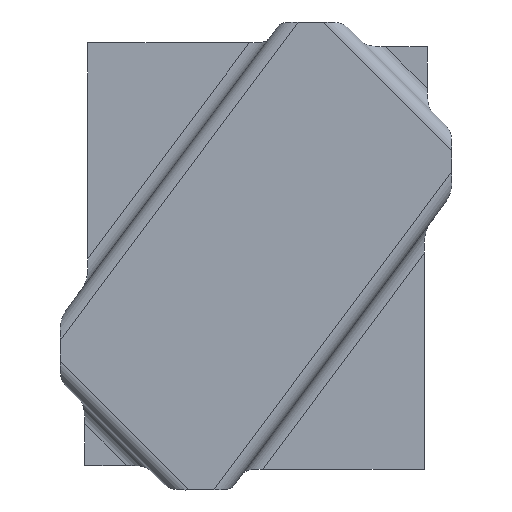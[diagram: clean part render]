
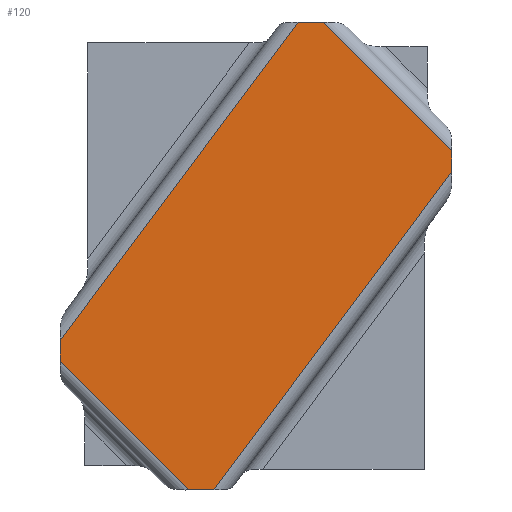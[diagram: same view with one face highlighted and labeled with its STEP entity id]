
A CAD part, top view. The second image highlights one B-rep face of the part: STEP entity #120.
In plain terms, the highlighted planar face has unit normal (0, 0, -1).
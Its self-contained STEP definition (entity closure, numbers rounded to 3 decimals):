
#53=CARTESIAN_POINT('Axis2P3D Location',(-51.673,38.62,65.01)) ;
#59=CARTESIAN_POINT('Control Point',(-51.673,77.927,65.01)) ;
#60=CARTESIAN_POINT('Control Point',(10.879,161.62,65.01)) ;
#61=CARTESIAN_POINT('Vertex',(-51.673,77.927,65.01)) ;
#63=CARTESIAN_POINT('Vertex',(10.879,161.62,65.01)) ;
#66=CARTESIAN_POINT('Line Origine',(-0.173,161.62,65.01)) ;
#70=CARTESIAN_POINT('Vertex',(17.501,161.62,65.01)) ;
#74=CARTESIAN_POINT('Control Point',(17.501,161.62,65.01)) ;
#75=CARTESIAN_POINT('Control Point',(51.327,127.794,65.01)) ;
#76=CARTESIAN_POINT('Vertex',(51.327,127.794,65.01)) ;
#79=CARTESIAN_POINT('Line Origine',(51.327,100.12,65.01)) ;
#83=CARTESIAN_POINT('Vertex',(51.327,122.33,65.01)) ;
#87=CARTESIAN_POINT('Control Point',(51.327,122.33,65.01)) ;
#88=CARTESIAN_POINT('Control Point',(-11.237,38.62,65.01)) ;
#89=CARTESIAN_POINT('Vertex',(-11.237,38.62,65.01)) ;
#92=CARTESIAN_POINT('Line Origine',(-0.173,38.62,65.01)) ;
#96=CARTESIAN_POINT('Vertex',(-17.847,38.62,65.01)) ;
#100=CARTESIAN_POINT('Control Point',(-51.673,72.446,65.01)) ;
#101=CARTESIAN_POINT('Control Point',(-17.847,38.62,65.01)) ;
#102=CARTESIAN_POINT('Vertex',(-51.673,72.446,65.01)) ;
#105=CARTESIAN_POINT('Line Origine',(-51.673,100.12,65.01)) ;
#54=DIRECTION('Axis2P3D Direction',(0.,0.,1.)) ;
#55=DIRECTION('Axis2P3D XDirection',(1.,0.,0.)) ;
#67=DIRECTION('Vector Direction',(1.,0.,0.)) ;
#80=DIRECTION('Vector Direction',(0.,1.,0.)) ;
#93=DIRECTION('Vector Direction',(1.,0.,0.)) ;
#106=DIRECTION('Vector Direction',(0.,1.,0.)) ;
#56=AXIS2_PLACEMENT_3D('Plane Axis2P3D',#53,#54,#55) ;
#111=ORIENTED_EDGE('',*,*,#65,.T.) ;
#112=ORIENTED_EDGE('',*,*,#72,.T.) ;
#113=ORIENTED_EDGE('',*,*,#78,.T.) ;
#114=ORIENTED_EDGE('',*,*,#85,.T.) ;
#115=ORIENTED_EDGE('',*,*,#91,.T.) ;
#116=ORIENTED_EDGE('',*,*,#98,.T.) ;
#117=ORIENTED_EDGE('',*,*,#104,.F.) ;
#118=ORIENTED_EDGE('',*,*,#109,.T.) ;
#68=VECTOR('Line Direction',#67,1.) ;
#81=VECTOR('Line Direction',#80,1.) ;
#94=VECTOR('Line Direction',#93,1.) ;
#107=VECTOR('Line Direction',#106,1.) ;
#120=ADVANCED_FACE('Offset.1',(#119),#57,.F.) ;
#58=B_SPLINE_CURVE_WITH_KNOTS('',1,(#59,#60),.UNSPECIFIED.,.F.,.U.,(2,2),(-52.243,52.243),.UNSPECIFIED.) ;
#73=B_SPLINE_CURVE_WITH_KNOTS('',1,(#74,#75),.UNSPECIFIED.,.F.,.U.,(2,2),(-23.919,23.919),.UNSPECIFIED.) ;
#86=B_SPLINE_CURVE_WITH_KNOTS('',1,(#87,#88),.UNSPECIFIED.,.F.,.U.,(2,2),(-52.253,52.253),.UNSPECIFIED.) ;
#99=B_SPLINE_CURVE_WITH_KNOTS('',1,(#100,#101),.UNSPECIFIED.,.F.,.U.,(2,2),(-23.919,23.919),.UNSPECIFIED.) ;
#65=EDGE_CURVE('',#62,#64,#58,.T.) ;
#72=EDGE_CURVE('',#64,#71,#69,.T.) ;
#78=EDGE_CURVE('',#71,#77,#73,.T.) ;
#85=EDGE_CURVE('',#77,#84,#82,.F.) ;
#91=EDGE_CURVE('',#84,#90,#86,.T.) ;
#98=EDGE_CURVE('',#90,#97,#95,.F.) ;
#104=EDGE_CURVE('',#103,#97,#99,.T.) ;
#109=EDGE_CURVE('',#103,#62,#108,.T.) ;
#110=EDGE_LOOP('',(#111,#112,#113,#114,#115,#116,#117,#118)) ;
#119=FACE_OUTER_BOUND('',#110,.T.) ;
#69=LINE('Line',#66,#68) ;
#82=LINE('Line',#79,#81) ;
#95=LINE('Line',#92,#94) ;
#108=LINE('Line',#105,#107) ;
#57=PLANE('',#56) ;
#62=VERTEX_POINT('',#61) ;
#64=VERTEX_POINT('',#63) ;
#71=VERTEX_POINT('',#70) ;
#77=VERTEX_POINT('',#76) ;
#84=VERTEX_POINT('',#83) ;
#90=VERTEX_POINT('',#89) ;
#97=VERTEX_POINT('',#96) ;
#103=VERTEX_POINT('',#102) ;
